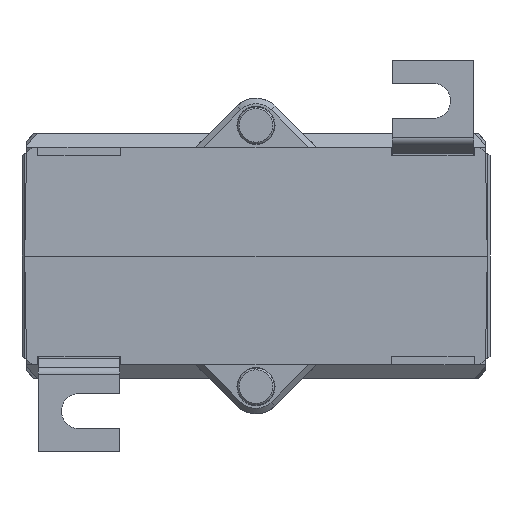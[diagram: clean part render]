
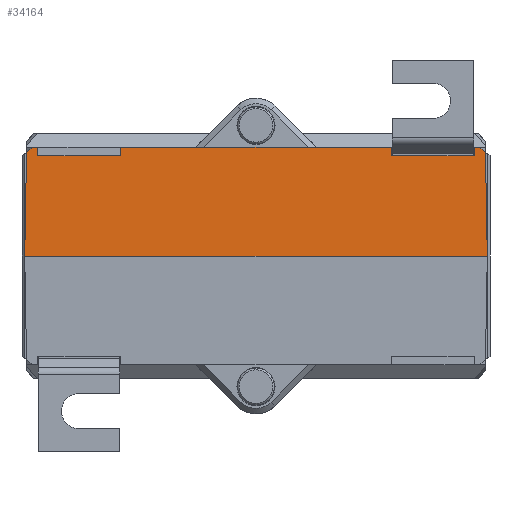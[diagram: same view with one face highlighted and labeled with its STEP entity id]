
A CAD part, front view. The second image highlights one B-rep face of the part: STEP entity #34164.
In plain terms, the highlighted planar face has unit normal (0, -1, 0.018).
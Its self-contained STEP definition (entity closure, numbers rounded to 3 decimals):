
#419=PLANE('',#36134);
#2782=FACE_OUTER_BOUND('',#4685,.T.);
#4685=EDGE_LOOP('',(#23331,#23332,#23333,#23334,#23335,#23336,#23337,#23338,
#23339,#23340,#23341,#23342,#23343,#23344));
#7438=LINE('',#51001,#11038);
#7442=LINE('',#51009,#11042);
#7499=LINE('',#51123,#11099);
#7502=LINE('',#51128,#11102);
#7515=LINE('',#51149,#11115);
#7556=LINE('',#51271,#11156);
#7557=LINE('',#51273,#11157);
#7558=LINE('',#51274,#11158);
#7559=LINE('',#51275,#11159);
#7560=LINE('',#51276,#11160);
#7561=LINE('',#51277,#11161);
#7562=LINE('',#51279,#11162);
#7563=LINE('',#51281,#11163);
#7564=LINE('',#51282,#11164);
#11038=VECTOR('',#38732,1000.);
#11042=VECTOR('',#38738,1000.);
#11099=VECTOR('',#38829,1000.);
#11102=VECTOR('',#38832,1000.);
#11115=VECTOR('',#38845,1000.);
#11156=VECTOR('',#38928,1000.);
#11157=VECTOR('',#38929,1000.);
#11158=VECTOR('',#38930,1000.);
#11159=VECTOR('',#38931,1000.);
#11160=VECTOR('',#38932,1000.);
#11161=VECTOR('',#38933,1000.);
#11162=VECTOR('',#38934,1000.);
#11163=VECTOR('',#38935,1000.);
#11164=VECTOR('',#38936,1000.);
#14831=VERTEX_POINT('',#50998);
#14832=VERTEX_POINT('',#51000);
#14834=VERTEX_POINT('',#51006);
#14835=VERTEX_POINT('',#51008);
#14874=VERTEX_POINT('',#51120);
#14875=VERTEX_POINT('',#51122);
#14876=VERTEX_POINT('',#51125);
#14877=VERTEX_POINT('',#51127);
#14884=VERTEX_POINT('',#51146);
#14885=VERTEX_POINT('',#51148);
#14945=VERTEX_POINT('',#51270);
#14946=VERTEX_POINT('',#51272);
#14947=VERTEX_POINT('',#51278);
#14948=VERTEX_POINT('',#51280);
#18086=EDGE_CURVE('',#14831,#14832,#7438,.T.);
#18090=EDGE_CURVE('',#14835,#14834,#7442,.T.);
#18147=EDGE_CURVE('',#14874,#14875,#7499,.T.);
#18150=EDGE_CURVE('',#14876,#14877,#7502,.T.);
#18163=EDGE_CURVE('',#14884,#14885,#7515,.T.);
#18224=EDGE_CURVE('',#14945,#14874,#7556,.T.);
#18225=EDGE_CURVE('',#14946,#14945,#7557,.T.);
#18226=EDGE_CURVE('',#14885,#14946,#7558,.T.);
#18227=EDGE_CURVE('',#14884,#14835,#7559,.T.);
#18228=EDGE_CURVE('',#14832,#14834,#7560,.T.);
#18229=EDGE_CURVE('',#14831,#14877,#7561,.T.);
#18230=EDGE_CURVE('',#14947,#14876,#7562,.T.);
#18231=EDGE_CURVE('',#14947,#14948,#7563,.T.);
#18232=EDGE_CURVE('',#14875,#14948,#7564,.T.);
#23331=ORIENTED_EDGE('',*,*,#18224,.F.);
#23332=ORIENTED_EDGE('',*,*,#18225,.F.);
#23333=ORIENTED_EDGE('',*,*,#18226,.F.);
#23334=ORIENTED_EDGE('',*,*,#18163,.F.);
#23335=ORIENTED_EDGE('',*,*,#18227,.T.);
#23336=ORIENTED_EDGE('',*,*,#18090,.T.);
#23337=ORIENTED_EDGE('',*,*,#18228,.F.);
#23338=ORIENTED_EDGE('',*,*,#18086,.F.);
#23339=ORIENTED_EDGE('',*,*,#18229,.T.);
#23340=ORIENTED_EDGE('',*,*,#18150,.F.);
#23341=ORIENTED_EDGE('',*,*,#18230,.F.);
#23342=ORIENTED_EDGE('',*,*,#18231,.T.);
#23343=ORIENTED_EDGE('',*,*,#18232,.F.);
#23344=ORIENTED_EDGE('',*,*,#18147,.F.);
#34164=ADVANCED_FACE('',(#2782),#419,.T.);
#36134=AXIS2_PLACEMENT_3D('',#51269,#38926,#38927);
#38732=DIRECTION('',(0.017,-0.017,-1.));
#38738=DIRECTION('',(-0.017,-0.017,-1.));
#38829=DIRECTION('',(1.,0.,0.));
#38832=DIRECTION('',(1.,0.,0.));
#38845=DIRECTION('',(1.,0.,0.));
#38926=DIRECTION('center_axis',(0.,-1.,
0.017));
#38927=DIRECTION('ref_axis',(0.,-0.017,-1.));
#38928=DIRECTION('',(0.009,0.017,1.));
#38929=DIRECTION('',(1.,0.,0.));
#38930=DIRECTION('',(0.009,-0.017,-1.));
#38931=DIRECTION('',(-0.719,-0.012,-0.695));
#38932=DIRECTION('',(-1.,0.,0.));
#38933=DIRECTION('',(-0.719,0.012,0.695));
#38934=DIRECTION('',(0.009,0.017,1.));
#38935=DIRECTION('',(-1.,0.,0.));
#38936=DIRECTION('',(0.009,-0.017,-1.));
#50998=CARTESIAN_POINT('',(42.168,-42.918,19.));
#51000=CARTESIAN_POINT('',(42.5,-43.25,0.));
#51001=CARTESIAN_POINT('',(42.47,-43.22,1.71));
#51006=CARTESIAN_POINT('',(-42.5,-43.25,0.));
#51008=CARTESIAN_POINT('',(-42.168,-42.918,19.));
#51009=CARTESIAN_POINT('',(-42.5,-43.25,0.));
#51120=CARTESIAN_POINT('',(-24.878,-42.901,20.));
#51122=CARTESIAN_POINT('',(24.878,-42.901,20.));
#51123=CARTESIAN_POINT('',(-42.5,-42.901,20.));
#51125=CARTESIAN_POINT('',(40.122,-42.901,20.));
#51127=CARTESIAN_POINT('',(41.133,-42.901,20.));
#51128=CARTESIAN_POINT('',(-42.5,-42.901,20.));
#51146=CARTESIAN_POINT('',(-41.133,-42.901,20.));
#51148=CARTESIAN_POINT('',(-40.122,-42.901,20.));
#51149=CARTESIAN_POINT('',(-42.5,-42.901,20.));
#51269=CARTESIAN_POINT('Origin',(-42.5,-43.25,0.));
#51270=CARTESIAN_POINT('',(-24.892,-42.929,18.4));
#51271=CARTESIAN_POINT('',(-25.054,-43.253,-0.152));
#51272=CARTESIAN_POINT('',(-40.108,-42.929,18.4));
#51273=CARTESIAN_POINT('',(-42.5,-42.929,18.4));
#51274=CARTESIAN_POINT('',(-39.948,-43.25,0.022));
#51275=CARTESIAN_POINT('',(-40.281,-42.887,20.822));
#51276=CARTESIAN_POINT('',(42.5,-43.25,0.));
#51277=CARTESIAN_POINT('',(40.281,-42.887,20.822));
#51278=CARTESIAN_POINT('',(40.108,-42.929,18.4));
#51279=CARTESIAN_POINT('',(39.941,-43.263,-0.719));
#51280=CARTESIAN_POINT('',(24.892,-42.929,18.4));
#51281=CARTESIAN_POINT('',(-42.5,-42.929,18.4));
#51282=CARTESIAN_POINT('',(25.047,-43.24,0.589));
